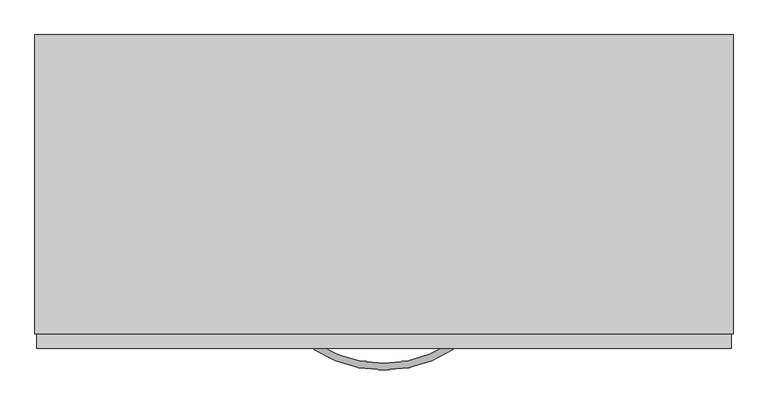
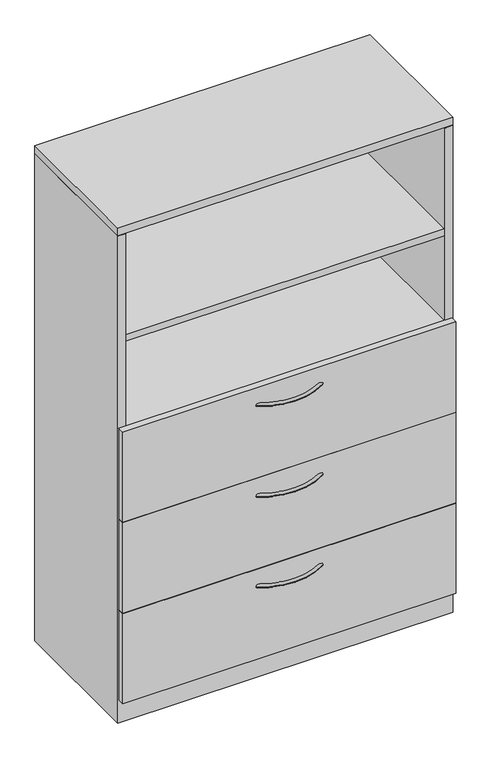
"""IFC4 building model written with IfcOpenShell, lengths in millimetres: furniture geometry, Steelcase - Universal Storage - Cabinet - Combination - Proud Steel : 65 1/2H - Open Cabinet/3 Drawers - 18 7/8D x 42W."""

from ifc_helpers import new_model, si_unit, point, frame, origin, place, context, project, spatial, polyline, circle_curve, ellipse_curve, trimmed, outline, extrude, faceted_brep, source, transform, mapped, element, save
from ifc_brep_helpers import plane_surface, revolved_surface, advanced_brep


def furniture_0174d013(model_context):
    return source(origin(), model_context, "Body", "SolidModel", [
        extrude(outline(polyline([(1041.4000242, -25.4000008), (1041.4000242, -454.0250121), (25.4000008, -454.0250121), (25.4000008, -25.4000008), (1041.4000242, -25.4000008)])), frame((0.0, 0.0, 965.2000242), z_axis=(0.0, 0.0, 1.0), x_axis=(1.0, 0.0, 0.0)), (0.0, 0.0, 1.0), 22.2249516),
        extrude(outline(polyline([(1041.4000242, -25.4000008), (1041.4000242, -454.0250121), (25.4000008, -454.0250121), (25.4000008, -25.4000008), (1041.4000242, -25.4000008)])), frame((0.0, 0.0, 1273.1750484), z_axis=(0.0, 0.0, 1.0), x_axis=(1.0, 0.0, 0.0)), (0.0, 0.0, 1.0), 22.2249516),
        advanced_brep(
        [(426.8245932, -481.5705994, 323.56425), (432.2977519, -473.0108019, 323.56425), (639.1315136, -481.1337636, 323.56425), (633.6231767, -472.5965612, 323.56425)],
        [
            (0, 1, circle_curve(frame((429.5611726, -477.2907007, 323.56425), z_axis=(-0.8424997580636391, 0.5386967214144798, 0.0), x_axis=(0.5386967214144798, 0.8424997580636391, 0.0)), 5.08)),
            (1, 0, circle_curve(frame((429.5611726, -477.2907007, 323.56425), z_axis=(-0.8424997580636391, 0.5386967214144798, 0.0), x_axis=(0.5386967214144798, 0.8424997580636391, 0.0)), 5.08)),
            (2, 3, circle_curve(frame((636.3773452, -476.8651624, 323.56425), z_axis=(0.8402758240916, 0.5421591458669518, 0.0), x_axis=(-0.5421591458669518, 0.8402758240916, 0.0)), 5.08)),
            (3, 2, circle_curve(frame((636.3773452, -476.8651624, 323.56425), z_axis=(0.8402758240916, 0.5421591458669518, 0.0), x_axis=(-0.5421591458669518, 0.8402758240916, 0.0)), 5.08)),
            (3, 1, circle_curve(frame((532.6380004, -316.0827352, 323.56425), z_axis=(0.0, 0.0, -1.0), x_axis=(-0.5386967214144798, -0.8424997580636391, 0.0)), 186.2648211)),
            (0, 2, circle_curve(frame((532.6380004, -316.0827352, 323.56425), z_axis=(0.0, 0.0, 1.0), x_axis=(-0.5386967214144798, -0.8424997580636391, 0.0)), 196.4248211)),
        ],
        [
            plane_surface(frame((429.9794521, -476.6365286, 324.358), z_axis=(-0.8424997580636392, 0.5386967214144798, 0.0), x_axis=(0.0, 0.0, 1.0))),
            plane_surface(frame((635.9563772, -476.2127171, 324.358), z_axis=(0.8402758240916, 0.5421591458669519, 0.0), x_axis=(0.0, 0.0, 1.0))),
            revolved_surface(trimmed(ellipse_curve(frame((429.5611726, -477.2907007, 323.56425), z_axis=(-0.8424997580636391, 0.5386967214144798, 0.0), x_axis=(0.5386967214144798, 0.8424997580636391, 0.0)), 5.08, 5.08), [point((426.8245932, -481.5705994, 323.56425))], [point((432.2977519, -473.0108019, 323.56425))], True, "CARTESIAN"), (532.6380004, -316.0827352, 324.358), (0.0, 0.0, 1.0)),
            revolved_surface(trimmed(ellipse_curve(frame((429.5611726, -477.2907007, 323.56425), z_axis=(-0.8424997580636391, 0.5386967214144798, 0.0), x_axis=(0.5386967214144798, 0.8424997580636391, 0.0)), 5.08, 5.08), [point((432.2977519, -473.0108019, 323.56425))], [point((426.8245932, -481.5705994, 323.56425))], True, "CARTESIAN"), (532.6380004, -316.0827352, 324.358), (0.0, 0.0, 1.0)),
        ],
        [
            (0, [[1, 2]]),
            (1, [[3, 4]]),
            (2, [[5, -1, 6, -4]]),
            (3, [[-6, -2, -5, -3]]),
        ],
    ),
        advanced_brep(
        [(426.8245932, -481.5705994, 627.85625), (432.2977519, -473.0108019, 627.85625), (639.1315136, -481.1337636, 627.85625), (633.6231767, -472.5965612, 627.85625)],
        [
            (0, 1, circle_curve(frame((429.5611726, -477.2907007, 627.85625), z_axis=(-0.8424997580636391, 0.5386967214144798, 0.0), x_axis=(0.5386967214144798, 0.8424997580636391, 0.0)), 5.08)),
            (1, 0, circle_curve(frame((429.5611726, -477.2907007, 627.85625), z_axis=(-0.8424997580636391, 0.5386967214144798, 0.0), x_axis=(0.5386967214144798, 0.8424997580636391, 0.0)), 5.08)),
            (2, 3, circle_curve(frame((636.3773452, -476.8651624, 627.85625), z_axis=(0.8402758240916, 0.5421591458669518, 0.0), x_axis=(-0.5421591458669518, 0.8402758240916, 0.0)), 5.08)),
            (3, 2, circle_curve(frame((636.3773452, -476.8651624, 627.85625), z_axis=(0.8402758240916, 0.5421591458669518, 0.0), x_axis=(-0.5421591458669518, 0.8402758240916, 0.0)), 5.08)),
            (3, 1, circle_curve(frame((532.6380004, -316.0827352, 627.85625), z_axis=(0.0, 0.0, -1.0), x_axis=(-0.5386967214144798, -0.8424997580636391, 0.0)), 186.2648211)),
            (0, 2, circle_curve(frame((532.6380004, -316.0827352, 627.85625), z_axis=(0.0, 0.0, 1.0), x_axis=(-0.5386967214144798, -0.8424997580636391, 0.0)), 196.4248211)),
        ],
        [
            plane_surface(frame((429.9794521, -476.6365286, 628.65), z_axis=(-0.8424997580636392, 0.5386967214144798, 0.0), x_axis=(0.0, 0.0, 1.0))),
            plane_surface(frame((635.9563772, -476.2127171, 628.65), z_axis=(0.8402758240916, 0.5421591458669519, 0.0), x_axis=(0.0, 0.0, 1.0))),
            revolved_surface(trimmed(ellipse_curve(frame((429.5611726, -477.2907007, 627.85625), z_axis=(-0.8424997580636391, 0.5386967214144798, 0.0), x_axis=(0.5386967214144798, 0.8424997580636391, 0.0)), 5.08, 5.08), [point((426.8245932, -481.5705994, 627.85625))], [point((432.2977519, -473.0108019, 627.85625))], True, "CARTESIAN"), (532.6380004, -316.0827352, 628.65), (0.0, 0.0, 1.0)),
            revolved_surface(trimmed(ellipse_curve(frame((429.5611726, -477.2907007, 627.85625), z_axis=(-0.8424997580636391, 0.5386967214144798, 0.0), x_axis=(0.5386967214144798, 0.8424997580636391, 0.0)), 5.08, 5.08), [point((432.2977519, -473.0108019, 627.85625))], [point((426.8245932, -481.5705994, 627.85625))], True, "CARTESIAN"), (532.6380004, -316.0827352, 628.65), (0.0, 0.0, 1.0)),
        ],
        [
            (0, [[1, 2]]),
            (1, [[3, 4]]),
            (2, [[5, -1, 6, -4]]),
            (3, [[-6, -2, -5, -3]]),
        ],
    ),
        extrude(outline(polyline([(1063.6225413, -479.552), (3.1725353, -479.552), (3.1725353, -457.3261219), (1063.6225413, -457.3261219), (1063.6225413, -479.552)])), frame((0.0, 0.0, 687.3240349), z_axis=(0.0, 0.0, 1.0), x_axis=(1.0, 0.0, 0.0)), (0.0, 0.0, 1.0), 303.2759651),
        advanced_brep(
        [(426.8245932, -481.5705994, 932.65625), (432.2977519, -473.0108019, 932.65625), (639.1315136, -481.1337636, 932.65625), (633.6231767, -472.5965612, 932.65625)],
        [
            (0, 1, circle_curve(frame((429.5611726, -477.2907007, 932.65625), z_axis=(-0.8424997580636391, 0.5386967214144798, 0.0), x_axis=(0.5386967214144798, 0.8424997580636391, 0.0)), 5.08)),
            (1, 0, circle_curve(frame((429.5611726, -477.2907007, 932.65625), z_axis=(-0.8424997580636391, 0.5386967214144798, 0.0), x_axis=(0.5386967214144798, 0.8424997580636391, 0.0)), 5.08)),
            (2, 3, circle_curve(frame((636.3773452, -476.8651624, 932.65625), z_axis=(0.8402758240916, 0.5421591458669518, 0.0), x_axis=(-0.5421591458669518, 0.8402758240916, 0.0)), 5.08)),
            (3, 2, circle_curve(frame((636.3773452, -476.8651624, 932.65625), z_axis=(0.8402758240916, 0.5421591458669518, 0.0), x_axis=(-0.5421591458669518, 0.8402758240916, 0.0)), 5.08)),
            (3, 1, circle_curve(frame((532.6380004, -316.0827352, 932.65625), z_axis=(0.0, 0.0, -1.0), x_axis=(-0.5386967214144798, -0.8424997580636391, 0.0)), 186.2648211)),
            (0, 2, circle_curve(frame((532.6380004, -316.0827352, 932.65625), z_axis=(0.0, 0.0, 1.0), x_axis=(-0.5386967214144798, -0.8424997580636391, 0.0)), 196.4248211)),
        ],
        [
            plane_surface(frame((429.9794521, -476.6365286, 933.45), z_axis=(-0.8424997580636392, 0.5386967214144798, 0.0), x_axis=(0.0, 0.0, 1.0))),
            plane_surface(frame((635.9563772, -476.2127171, 933.45), z_axis=(0.8402758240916, 0.5421591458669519, 0.0), x_axis=(0.0, 0.0, 1.0))),
            revolved_surface(trimmed(ellipse_curve(frame((429.5611726, -477.2907007, 932.65625), z_axis=(-0.8424997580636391, 0.5386967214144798, 0.0), x_axis=(0.5386967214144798, 0.8424997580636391, 0.0)), 5.08, 5.08), [point((426.8245932, -481.5705994, 932.65625))], [point((432.2977519, -473.0108019, 932.65625))], True, "CARTESIAN"), (532.6380004, -316.0827352, 933.45), (0.0, 0.0, 1.0)),
            revolved_surface(trimmed(ellipse_curve(frame((429.5611726, -477.2907007, 932.65625), z_axis=(-0.8424997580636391, 0.5386967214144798, 0.0), x_axis=(0.5386967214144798, 0.8424997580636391, 0.0)), 5.08, 5.08), [point((432.2977519, -473.0108019, 932.65625))], [point((426.8245932, -481.5705994, 932.65625))], True, "CARTESIAN"), (532.6380004, -316.0827352, 933.45), (0.0, 0.0, 1.0)),
        ],
        [
            (0, [[1, 2]]),
            (1, [[3, 4]]),
            (2, [[5, -1, 6, -4]]),
            (3, [[-6, -2, -5, -3]]),
        ],
    ),
        faceted_brep([(25.4000008, -457.3261219, 76.2), (1041.4000242, -457.3261219, 76.2), (1041.4000242, -25.4000008, 76.2), (25.4000008, -25.4000008, 76.2), (1066.8, 0.0, 0.0), (1066.8, -457.3261219, 0.0), (0.0, -457.3261219, 0.0), (0.0, 0.0, 0.0), (0.0, 0.0, 1636.776), (1066.8, 0.0, 1636.776), (0.0, -457.3261219, 1636.776), (1066.8, -457.3261219, 1636.776), (1041.4000242, -457.3261219, 1636.776), (25.4000008, -457.3261219, 1636.776), (1041.4000242, -25.4000008, 1636.776), (25.4000008, -25.4000008, 1636.776)], [[[0, 1, 2, 3]], [[4, 5, 6, 7]], [[4, 7, 8, 9]], [[8, 7, 6, 10]], [[10, 6, 5, 11, 12, 1, 0, 13]], [[11, 5, 4, 9]], [[14, 12, 11, 9, 8, 10, 13, 15]], [[12, 14, 2, 1]], [[15, 13, 0, 3]], [[14, 15, 3, 2]]]),
        extrude(outline(polyline([(1063.6225413, -479.552), (3.1725353, -479.552), (3.1725353, -457.3261219), (1063.6225413, -457.3261219), (1063.6225413, -479.552)])), frame((0.0, 0.0, 77.724), z_axis=(0.0, 0.0, 1.0), x_axis=(1.0, 0.0, 0.0)), (0.0, 0.0, 1.0), 303.276),
        extrude(outline(polyline([(1063.6225413, -479.552), (3.1725353, -479.552), (3.1725353, -457.3261219), (1063.6225413, -457.3261219), (1063.6225413, -479.552)])), frame((0.0, 0.0, 382.524), z_axis=(0.0, 0.0, 1.0), x_axis=(1.0, 0.0, 0.0)), (0.0, 0.0, 1.0), 303.276),
        extrude(outline(polyline([(1066.8, 0.0), (1066.8, -457.3261219), (0.0, -457.3261219), (0.0, 0.0), (1066.8, 0.0)])), frame((0.0, 0.0, 1638.2999516), z_axis=(0.0, 0.0, 1.0), x_axis=(1.0, 0.0, 0.0)), (0.0, 0.0, 1.0), 25.4000484),
    ])


if __name__ == "__main__":
    model = new_model("IFC4")
    model_context = context("Model", 3, world=origin())
    ifc_project = project(units=[si_unit("LENGTHUNIT", "METRE", prefix="MILLI")], contexts=[model_context])
    site = spatial("IfcSite", under=ifc_project)
    building = spatial("IfcBuilding", under=site)
    placement = place(None, origin())
    furniture_shape = furniture_0174d013(model_context)
    element("IfcFurniture", 1, ObjectType="Steelcase - Universal Storage - Cabinet - Combination - Proud Steel : 65 1/2H - Open Cabinet/3 Drawers - 18 7/8D x 42W", at=placement, inside=building, context=model_context, shape_type="MappedRepresentation", body=[
        mapped(furniture_shape, transform((0.0, 0.0, 0.0), x_axis=(1.0, 0.0, 0.0), y_axis=(0.0, 1.0, 0.0), z_axis=(0.0, 0.0, 1.0))),
    ])
    save(model, "model.ifc")
